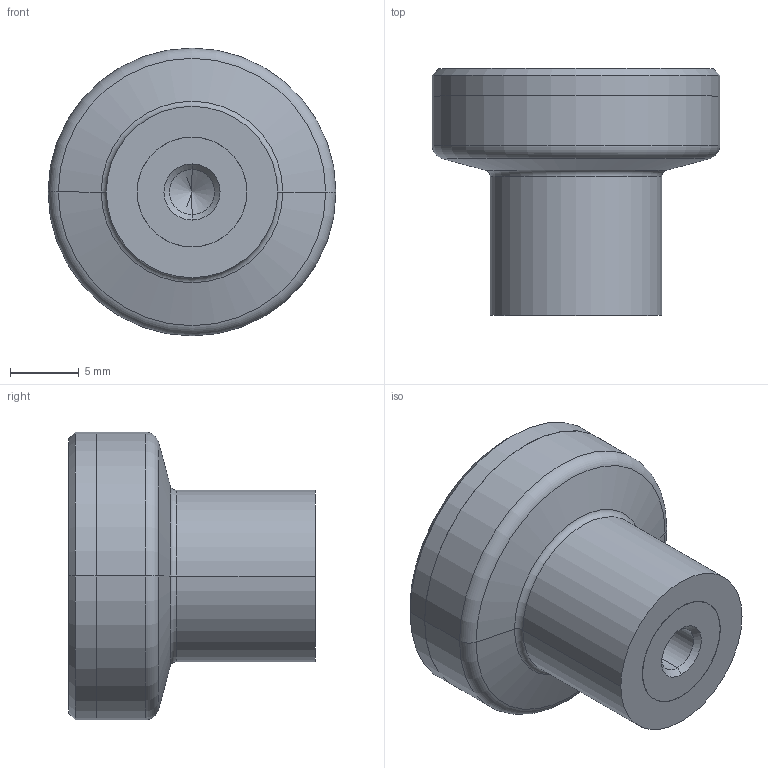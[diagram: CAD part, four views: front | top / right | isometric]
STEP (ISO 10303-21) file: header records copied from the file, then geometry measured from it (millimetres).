
FILE_DESCRIPTION (( 'STEP AP214' ), '1' );
FILE_NAME ('676-21-M4-OR.step', '2021-03-03T19:40:45', ( '' ), ( '' ), 'SwSTEP 2.0', 'SolidWorks 2019', '' );
FILE_SCHEMA (( 'AUTOMOTIVE_DESIGN' ));
Length unit declared in the file: millimetre
Products named in the file (1): 676-21-M4-OR
Bounding box: 21 x 18 x 21 mm (x, y, z)
Volume: 3523.5 mm3; surface area: 1620.5 mm2
Topology: 1 solids, 1 shells, 31 faces, 62 edges, 36 vertices
Faces by surface type: cylinder 12, cone 8, plane 5, torus 4, sphere 2
Entity records: 909 total; most frequent: DIRECTION 164, CARTESIAN_POINT 128, ORIENTED_EDGE 120, AXIS2_PLACEMENT_3D 72, EDGE_CURVE 60, CIRCLE 40, VERTEX_POINT 36, EDGE_LOOP 36
